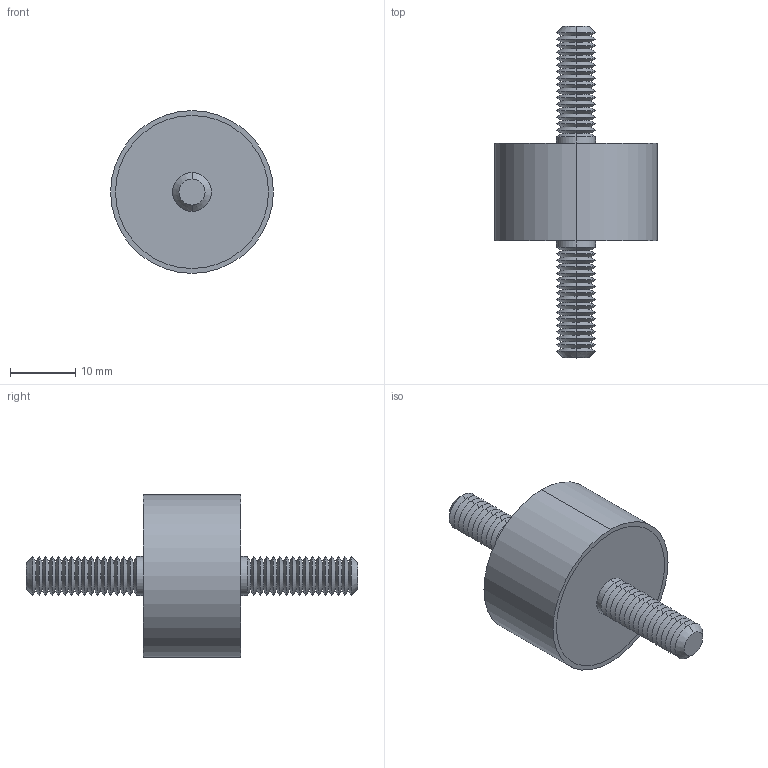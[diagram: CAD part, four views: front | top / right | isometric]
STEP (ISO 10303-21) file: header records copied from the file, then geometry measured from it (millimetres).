
FILE_DESCRIPTION (( 'STEP AP203' ), '1' );
FILE_NAME ('61040.W0253.step', '2019-09-24T22:32:02', ( '' ), ( '' ), 'SwSTEP 2.0', 'SolidWorks 2017', '' );
FILE_SCHEMA (( 'CONFIG_CONTROL_DESIGN' ));
Length unit declared in the file: millimetre
Products named in the file (4): 61040.W0253; Part3_61040.W0253; Part1_61040.W0253; Part2_61040.W0253
Assembly tree (3 placements, depth 2):
  61040.W0253
    Part1_61040.W0253
    Part2_61040.W0253
    Part3_61040.W0253
Bounding box: 25 x 51 x 25 mm (x, y, z)
Volume: 8128.2 mm3; surface area: 5125.4 mm2
Topology: 3 solids, 3 shells, 156 faces, 306 edges, 160 vertices
Faces by surface type: cone 132, cylinder 14, plane 10
Entity records: 4308 total; most frequent: DIRECTION 790, CARTESIAN_POINT 628, ORIENTED_EDGE 612, AXIS2_PLACEMENT_3D 322, EDGE_CURVE 306, EDGE_LOOP 160, VERTEX_POINT 160, CIRCLE 160
